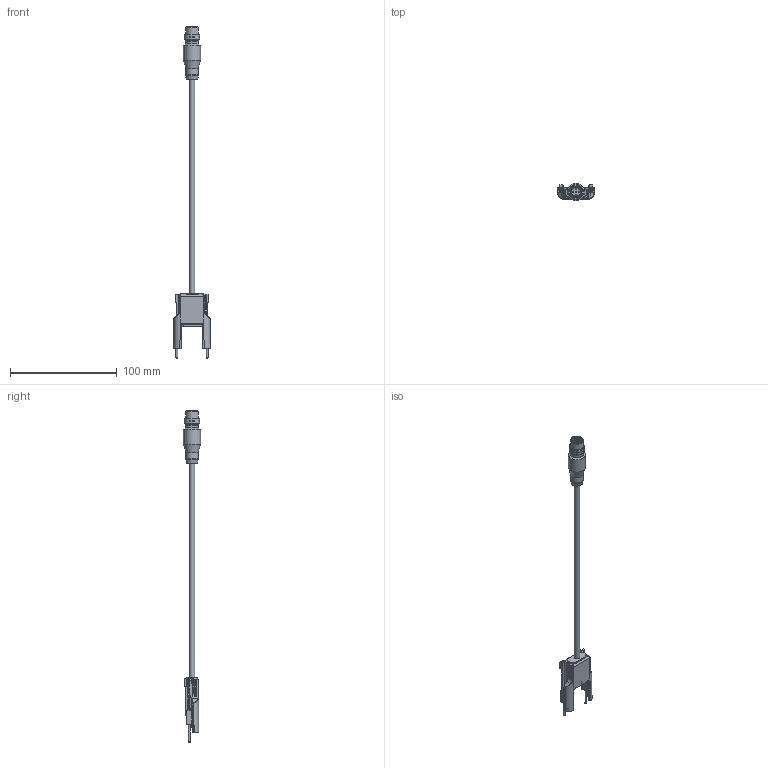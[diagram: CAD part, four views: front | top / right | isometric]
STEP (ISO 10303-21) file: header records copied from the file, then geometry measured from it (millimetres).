
FILE_DESCRIPTION(/* description */ (''),/* implementation_level */ '2;1');
FILE_NAME(/* name */ 'DSD- (95A252820-a).stp',/* time_stamp */ '2020-06-01T12:37:55+02:00',/* author */ (''),/* organization */ (''),/* preprocessor_version */ 'ST-DEVELOPER v16.7',/* originating_system */ 'SIEMENS PLM Software NX 12.0',/* authorisation */ '');
FILE_SCHEMA (('AUTOMOTIVE_DESIGN { 1 0 10303 214 3 1 1 1 }'));
Length unit declared in the file: millimetre
Products named in the file (9): AP002066_00_1-Plastica conn_M12_5P; AP002068_00_1-PINxM12_4P_cavo; AP003751_00_1-Cavo D5 L200 dritto; AP003746_00_2-Terminale CVL SG4E; MP001991_02_1-Vite imp. M2x29_5 testa cil. Ph; MP001955_04_1-Corpo connettore SG4E; MP001951_02_1-Guarnizione connettore SG4E; MP001572_02_1-Connettore x M12_5P x fili; AS000534_05_1-SG4E cable plugs
Assembly tree (13 placements, depth 3):
  AS000534_05_1-SG4E cable plugs
    MP001951_02_1-Guarnizione connettore SG4E
    MP001955_04_1-Corpo connettore SG4E
    MP001991_02_1-Vite imp. M2x29_5 testa cil. Ph  x2
    AP003746_00_2-Terminale CVL SG4E
    MP001572_02_1-Connettore x M12_5P x fili
      AP002068_00_1-PINxM12_4P_cavo  x5
      AP002066_00_1-Plastica conn_M12_5P
    AP003751_00_1-Cavo D5 L200 dritto
Bounding box: 35 x 16 x 310.7 mm (x, y, z)
Volume: 20889.5 mm3; surface area: 13988.7 mm2
Topology: 12 solids, 12 shells, 911 faces, 2208 edges, 1412 vertices
Faces by surface type: plane 618, cylinder 172, bspline 51, cone 38, torus 28, sphere 4
Full cylindrical faces by diameter (mm): 0.7 x5, 0.8 x10, 1 x20, 1.6 x2, 1.8 x2, 1.886 x2, 2.05 x2, 3.6 x2, 4 x2, 5 x1, 8 x2, 8.3 x1, 9.3 x1, 9.4 x2, 9.5 x1, 10 x1, 10.4 x1, 11.5 x1, 12 x2, 13.5 x1, 14.5 x2, 16 x1
Entity records: 25227 total; most frequent: CARTESIAN_POINT 5461, DIRECTION 3872, ORIENTED_EDGE 3850, EDGE_CURVE 1925, LINE 1384, VECTOR 1384, VERTEX_POINT 1280, AXIS2_PLACEMENT_3D 1244
